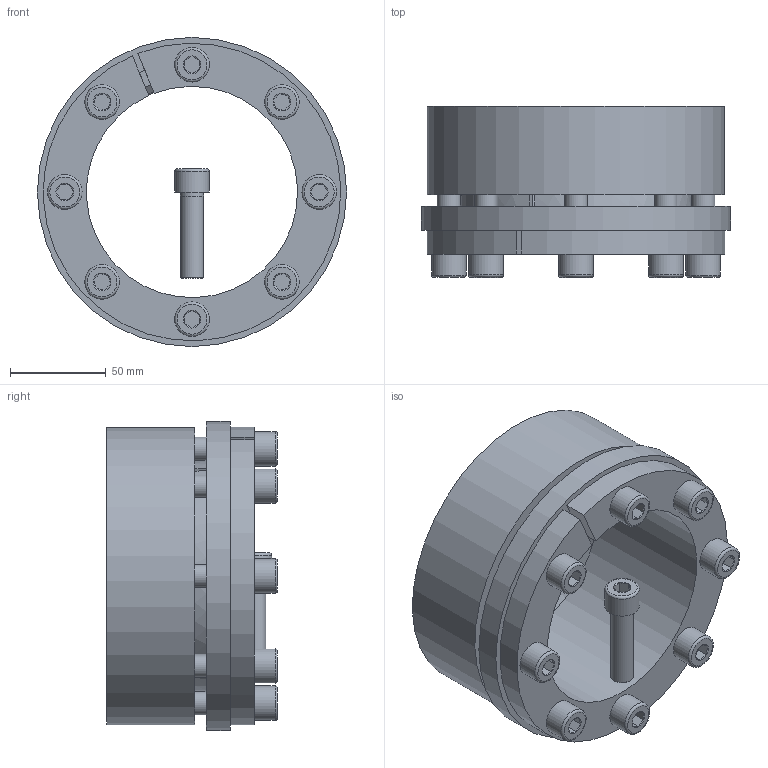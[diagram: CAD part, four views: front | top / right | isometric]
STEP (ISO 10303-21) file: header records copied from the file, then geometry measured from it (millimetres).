
FILE_DESCRIPTION( ( 'Unknown' ), '1' );
FILE_NAME( 'C:/Dokumente und Einstellungen/Sven/Desktop/homepage/cad - homepage/KBS71/KBS 71 - 110 x 155.stp', 'Unknown', ( 'Unknown' ), ( 'Unknown' ), 'XStep 1.0', 'Unknown', ' ' );
FILE_SCHEMA( ( 'automotive_design' ) );
Length unit declared in the file: millimetre
Products named in the file (3): Assem1; KBS 71 - 110 x 155; ISO EN DIN 4762 M12x45
Bounding box: 161 x 89 x 161 mm (x, y, z)
Volume: 1318477.9 mm3; surface area: 269825.1 mm2
Topology: 11 solids, 11 shells, 305 faces, 659 edges, 394 vertices
Faces by surface type: plane 140, cylinder 76, cone 71, torus 18
Full cylindrical faces by diameter (mm): 11 x9, 12 x50, 18 x9, 161 x2
Entity records: 2318 total; most frequent: CARTESIAN_POINT 365, DIRECTION 352, ORIENTED_EDGE 272, AXIS2_PLACEMENT_3D 151, EDGE_CURVE 136, EDGE_LOOP 122, VERTEX_POINT 96, FACE_OUTER_BOUND 88
